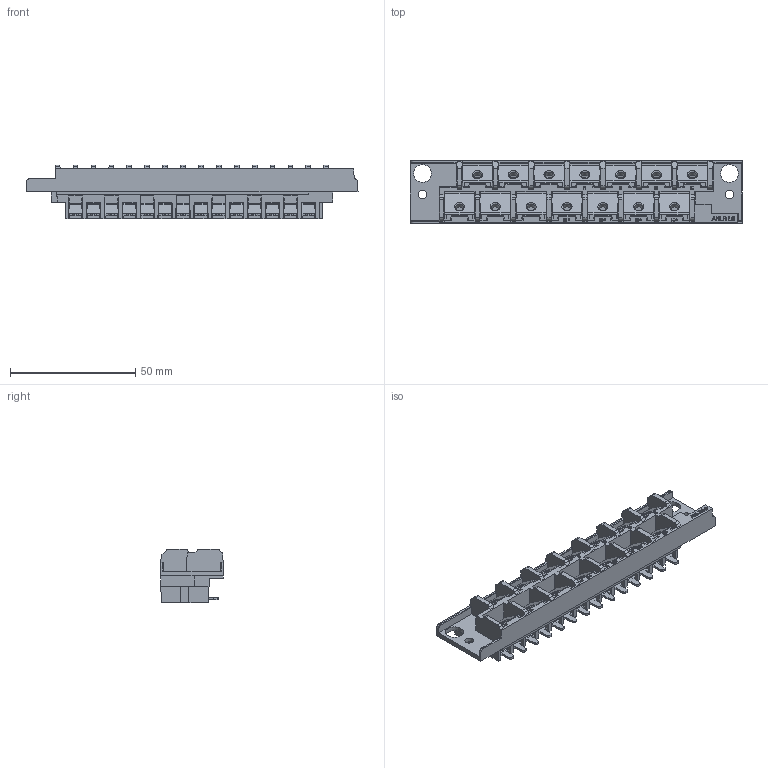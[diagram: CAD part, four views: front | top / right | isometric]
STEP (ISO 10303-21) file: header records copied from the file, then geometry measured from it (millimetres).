
FILE_DESCRIPTION(/* description */ (''),/* implementation_level */ '2;1');
FILE_NAME(/* name */ 'C:\Users\jondi\Desktop\FLEX 3D STP\L6.stp',/* time_stamp */ '2021-03-10T12:38:53-06:00',/* author */ ('jondi'),/* organization */ (''),/* preprocessor_version */ 'ST-DEVELOPER v17.2',/* originating_system */ 'Autodesk Inventor 2019',/* authorisation */ '');
FILE_SCHEMA (('AUTOMOTIVE_DESIGN { 1 0 10303 214 3 1 1 }'));
Length unit declared in the file: inch
Products named in the file (7): L6; 9579230120; 9579230001; CT Connector Housing - Dual Row; Basler CT Metal; Basler CT Metal4; 9579230008
Assembly tree (18 placements, depth 4):
  L6
    9579230120
      9579230001
        CT Connector Housing - Dual Row
      Basler CT Metal  x7
      Basler CT Metal4  x7
    9579230008
Bounding box: 132.55 x 24.98 x 21.46 mm (x, y, z)
Volume: 20011.4 mm3; surface area: 32473.7 mm2
Topology: 42 solids, 42 shells, 1797 faces, 4862 edges, 3129 vertices
Faces by surface type: plane 1382, cylinder 266, bspline 89, cone 32, torus 28
Full cylindrical faces by diameter (mm): 0.762 x4, 3.302 x14, 4.369 x14
Entity records: 36239 total; most frequent: CARTESIAN_POINT 7447, ORIENTED_EDGE 6220, DIRECTION 5391, EDGE_CURVE 3110, LINE 2609, VECTOR 2609, VERTEX_POINT 2013, AXIS2_PLACEMENT_3D 1391
